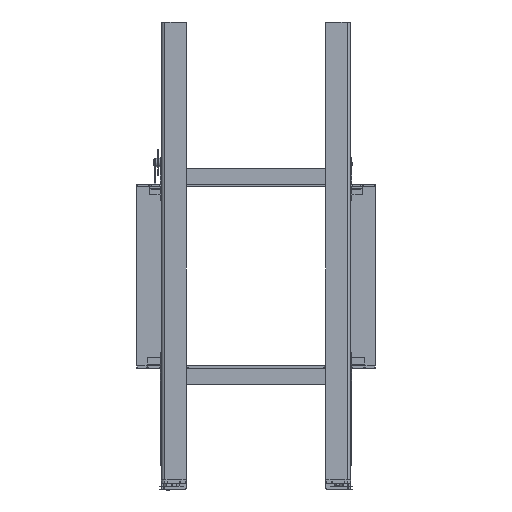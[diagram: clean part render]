
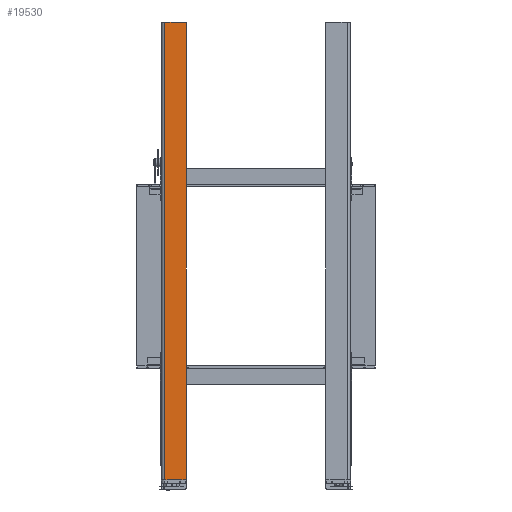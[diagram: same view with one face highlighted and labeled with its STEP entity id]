
A CAD part, front view. The second image highlights one B-rep face of the part: STEP entity #19530.
In plain terms, the highlighted planar face has unit normal (0, -1, 0).
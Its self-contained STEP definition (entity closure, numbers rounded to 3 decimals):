
#1675=LINE('',#28453,#3412);
#1780=LINE('',#28809,#3517);
#1795=LINE('',#28851,#3532);
#1797=LINE('',#28857,#3534);
#1798=LINE('',#28861,#3535);
#1799=LINE('',#28862,#3536);
#3412=VECTOR('',#22645,10.);
#3517=VECTOR('',#22982,10.);
#3532=VECTOR('',#23025,10.);
#3534=VECTOR('',#23035,10.);
#3535=VECTOR('',#23042,10.);
#3536=VECTOR('',#23043,10.);
#5250=FACE_OUTER_BOUND('',#6288,.T.);
#6288=EDGE_LOOP('',(#13492,#13493,#13494,#13495,#13496,#13497,#13498,#13499));
#7393=CIRCLE('',#20661,2.);
#7395=CIRCLE('',#20666,2.);
#8337=VERTEX_POINT('',#28439);
#8343=VERTEX_POINT('',#28451);
#8476=VERTEX_POINT('',#28802);
#8477=VERTEX_POINT('',#28804);
#8478=VERTEX_POINT('',#28808);
#8483=VERTEX_POINT('',#28822);
#8490=VERTEX_POINT('',#28848);
#8491=VERTEX_POINT('',#28850);
#10225=EDGE_CURVE('',#8343,#8337,#1675,.T.);
#10402=EDGE_CURVE('',#8477,#8476,#7393,.T.);
#10404=EDGE_CURVE('',#8478,#8477,#1780,.T.);
#10411=EDGE_CURVE('',#8483,#8478,#7395,.T.);
#10426=EDGE_CURVE('',#8491,#8490,#1795,.T.);
#10430=EDGE_CURVE('',#8476,#8491,#1797,.T.);
#10432=EDGE_CURVE('',#8337,#8490,#1798,.T.);
#10433=EDGE_CURVE('',#8483,#8343,#1799,.T.);
#13492=ORIENTED_EDGE('',*,*,#10402,.T.);
#13493=ORIENTED_EDGE('',*,*,#10430,.T.);
#13494=ORIENTED_EDGE('',*,*,#10426,.T.);
#13495=ORIENTED_EDGE('',*,*,#10432,.F.);
#13496=ORIENTED_EDGE('',*,*,#10225,.F.);
#13497=ORIENTED_EDGE('',*,*,#10433,.F.);
#13498=ORIENTED_EDGE('',*,*,#10411,.T.);
#13499=ORIENTED_EDGE('',*,*,#10404,.T.);
#18947=PLANE('',#20683);
#19530=ADVANCED_FACE('',(#5250),#18947,.T.);
#20661=AXIS2_PLACEMENT_3D('',#28805,#22977,#22978);
#20666=AXIS2_PLACEMENT_3D('',#28823,#22994,#22995);
#20683=AXIS2_PLACEMENT_3D('',#28860,#23040,#23041);
#22645=DIRECTION('',(-1.,0.,0.));
#22977=DIRECTION('center_axis',(0.,-1.,0.));
#22978=DIRECTION('ref_axis',(0.707,0.,0.707));
#22982=DIRECTION('',(0.,0.,1.));
#22994=DIRECTION('center_axis',(0.,-1.,0.));
#22995=DIRECTION('ref_axis',(0.707,0.,-0.707));
#23025=DIRECTION('',(0.,0.,-1.));
#23035=DIRECTION('',(-1.,0.,0.));
#23040=DIRECTION('center_axis',(0.,-1.,0.));
#23041=DIRECTION('ref_axis',(0.,0.,
-1.));
#23042=DIRECTION('',(-1.,0.,0.));
#23043=DIRECTION('',(-1.,0.,0.));
#28439=CARTESIAN_POINT('',(-274.5,-865.5,-904.));
#28451=CARTESIAN_POINT('',(-232.5,-865.5,-904.));
#28453=CARTESIAN_POINT('',(-215.5,-865.5,-904.));
#28802=CARTESIAN_POINT('',(-217.5,-865.5,508.5));
#28804=CARTESIAN_POINT('',(-215.5,-865.5,506.5));
#28805=CARTESIAN_POINT('Origin',(-217.5,-865.5,506.5));
#28808=CARTESIAN_POINT('',(-215.5,-865.5,-902.));
#28809=CARTESIAN_POINT('',(-215.5,-865.5,-904.));
#28822=CARTESIAN_POINT('',(-217.5,-865.5,-904.));
#28823=CARTESIAN_POINT('Origin',(-217.5,-865.5,-902.));
#28848=CARTESIAN_POINT('',(-281.25,-865.5,-904.));
#28850=CARTESIAN_POINT('',(-281.25,-865.5,508.5));
#28851=CARTESIAN_POINT('',(-281.25,-865.5,-197.75));
#28857=CARTESIAN_POINT('',(-215.5,-865.5,508.5));
#28860=CARTESIAN_POINT('Origin',(-286.591,-865.5,-197.75));
#28861=CARTESIAN_POINT('',(-215.5,-865.5,-904.));
#28862=CARTESIAN_POINT('',(-215.5,-865.5,-904.));
